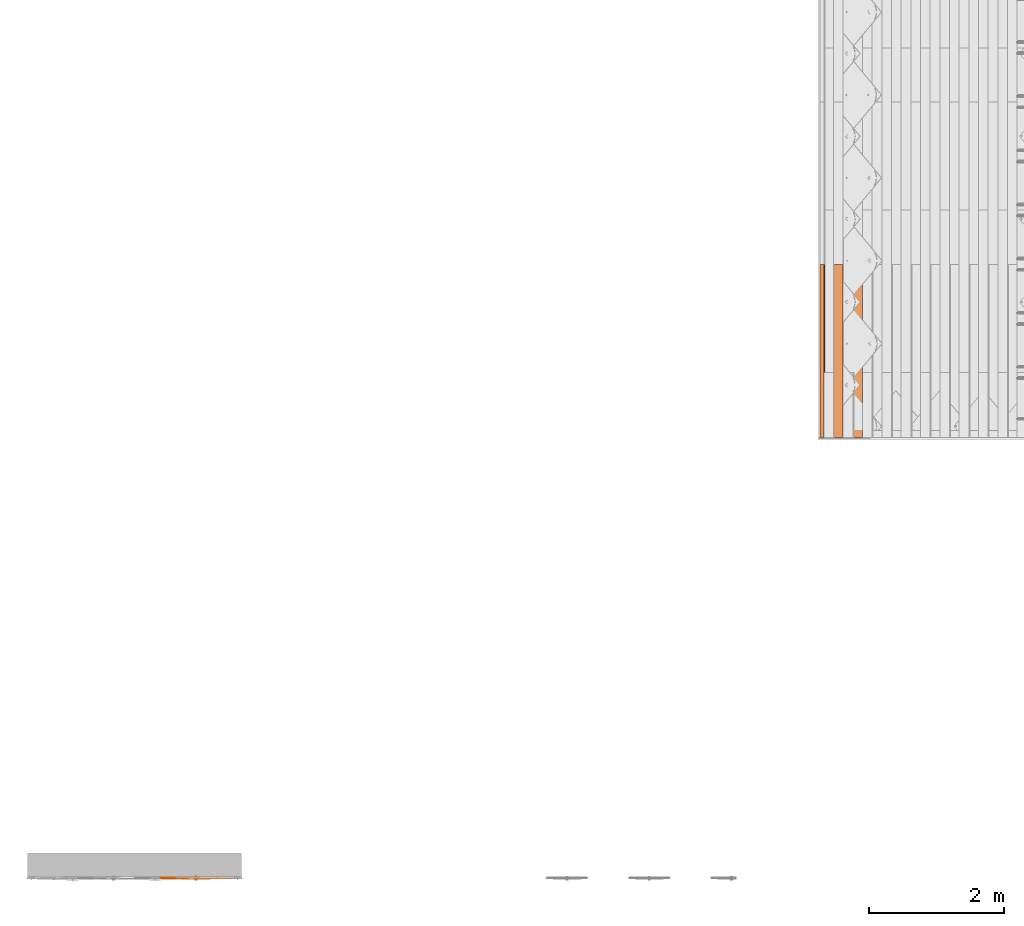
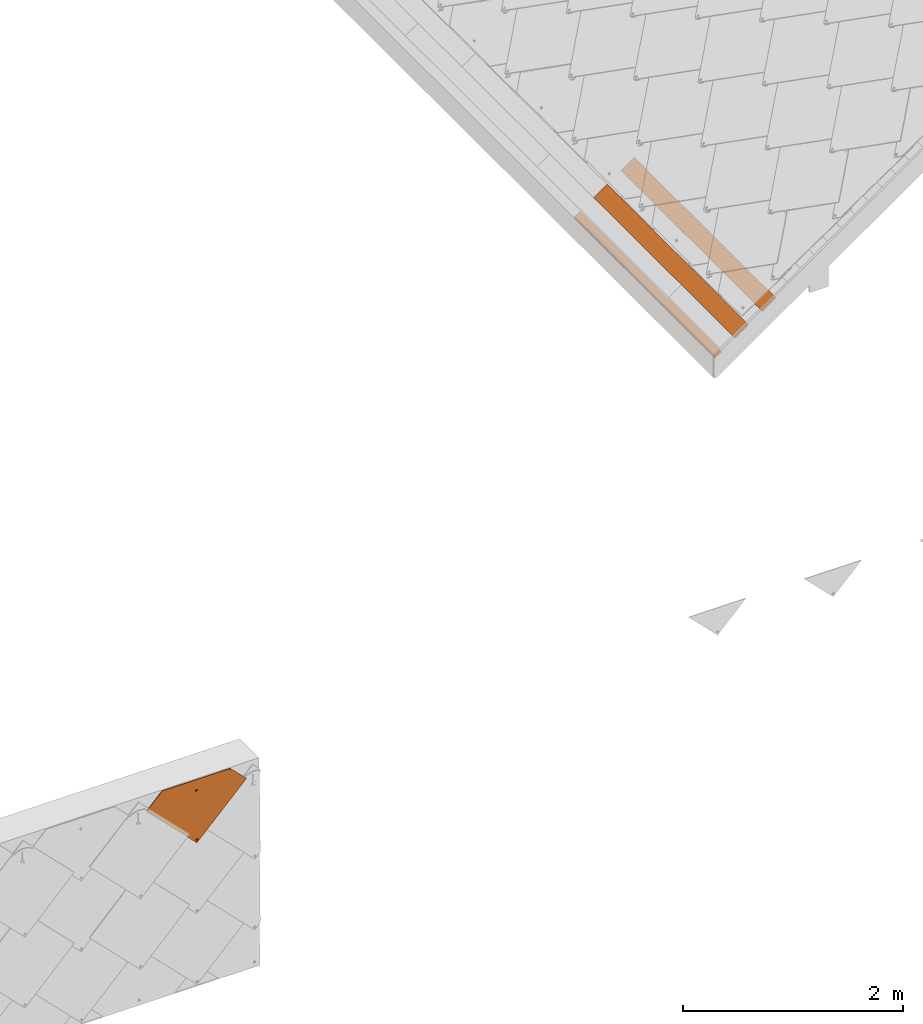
# One storey, part 8 of 151: 4 proxies, 1 element without a shape of its own.
"""IFC2X3 building model written with IfcOpenShell, lengths in millimetres."""

from ifc_helpers import new_model, entity, si_unit, converted_unit, derived_unit, direction, frame, frame_2d, origin, place, context, subcontext, project, spatial, polyline, rectangle, outline, extrude, faceted_brep, source, transform, mapped, material, material_list, type_object, type_shapes, element, aggregate, save


model = new_model("IFC2X3")

# Units and contexts
model_context = context("Model", 3, precision=0.01, world=origin(), true_north=direction((6.12303176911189e-17, 1.0)))
body_context = subcontext(model_context, "Body", "Model", "MODEL_VIEW")
ifc_project = project(units=[si_unit("LENGTHUNIT", "METRE", prefix="MILLI"), si_unit("AREAUNIT", "SQUARE_METRE"), si_unit("VOLUMEUNIT", "CUBIC_METRE"), converted_unit("PLANEANGLEUNIT", "DEGREE", entity("IfcRatioMeasure", 0.0174532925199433), si_unit("PLANEANGLEUNIT", "RADIAN"), dimensions=[0, 0, 0, 0, 0, 0, 0]), si_unit("MASSUNIT", "GRAM", prefix="KILO"), derived_unit("MASSDENSITYUNIT", [(si_unit("MASSUNIT", "GRAM", prefix="KILO"), 1), (si_unit("LENGTHUNIT", "METRE"), -3)]), si_unit("TIMEUNIT", "SECOND"), si_unit("FREQUENCYUNIT", "HERTZ"), si_unit("THERMODYNAMICTEMPERATUREUNIT", "DEGREE_CELSIUS"), derived_unit("THERMALTRANSMITTANCEUNIT", [(si_unit("MASSUNIT", "GRAM", prefix="KILO"), 1), (si_unit("THERMODYNAMICTEMPERATUREUNIT", "KELVIN"), -1), (si_unit("TIMEUNIT", "SECOND"), -3)]), derived_unit("VOLUMETRICFLOWRATEUNIT", [(si_unit("LENGTHUNIT", "METRE"), 3), (si_unit("TIMEUNIT", "SECOND"), -1)]), si_unit("ELECTRICCURRENTUNIT", "AMPERE"), si_unit("ELECTRICVOLTAGEUNIT", "VOLT"), si_unit("POWERUNIT", "WATT"), si_unit("FORCEUNIT", "NEWTON", prefix="KILO"), si_unit("ILLUMINANCEUNIT", "LUX"), si_unit("LUMINOUSFLUXUNIT", "LUMEN"), si_unit("LUMINOUSINTENSITYUNIT", "CANDELA"), derived_unit("USERDEFINED", [(si_unit("MASSUNIT", "GRAM", prefix="KILO"), -1), (si_unit("LENGTHUNIT", "METRE"), -2), (si_unit("TIMEUNIT", "SECOND"), 3), (si_unit("LUMINOUSFLUXUNIT", "LUMEN"), 1)]), derived_unit("LINEARVELOCITYUNIT", [(si_unit("LENGTHUNIT", "METRE"), 1), (si_unit("TIMEUNIT", "SECOND"), -1)]), si_unit("PRESSUREUNIT", "PASCAL"), derived_unit("USERDEFINED", [(si_unit("LENGTHUNIT", "METRE"), -2), (si_unit("MASSUNIT", "GRAM", prefix="KILO"), 1), (si_unit("TIMEUNIT", "SECOND"), -2)])], contexts=[model_context])

# Site, building, storey
site_placement = place(None, origin())
site = spatial("IfcSite", under=ifc_project, at=site_placement, Name="Default", CompositionType="ELEMENT")
building_placement = place(site_placement, origin())
building = spatial("IfcBuilding", under=site, at=building_placement, CompositionType="ELEMENT")
storey_placement = place(building_placement, origin())
storey = spatial("IfcBuildingStorey", under=building, at=storey_placement, Name="Level 1", CompositionType="ELEMENT", Elevation=0.0)

# Assembly, proxies
assembly_placement = place(storey_placement, origin())
assembly = element("IfcElementAssembly", 1, at=assembly_placement, inside=storey, Name="Structural Framing Assembly:Roof Construction Assembly", ObjectType="Structural Framing Assembly:Roof Construction Assembly", AssemblyPlace="NOTDEFINED", PredefinedType="USERDEFINED")
ifc_material_1 = material(Name="Wood - Generic - Wood For Showcase")
building_element_proxy_type_1 = type_object("IfcBuildingElementProxyType", Name="Structural Framing 15", PredefinedType="NOTDEFINED", material=ifc_material_1)
shared_shape_1 = source(origin(), body_context, "Body", "SweptSolid", [
    extrude(rectangle(XDim=24.9999999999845, YDim=174.344679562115, at=frame_2d((-1.77635683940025e-13, -4.54747350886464e-13), x_axis=(0.0, 1.0))), frame((1128.20180147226, 1437.09519417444, 2760.23940055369), z_axis=(0.0, 1.0, 0.0), x_axis=(-0.819152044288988, 0.0, -0.573576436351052)), (0.0, 0.0, 1.0), 2558.4556079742),
])
type_shapes(building_element_proxy_type_1, [shared_shape_1])
proxy_1_placement = place(assembly_placement, frame((-3227.25254439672, -8140.0, -2300.0)))
proxy_1 = element("IfcBuildingElementProxy", 2, at=proxy_1_placement, type_object=building_element_proxy_type_1, material=ifc_material_1, Name="Structural Framing 133:Structural Framing 15", ObjectType="Structural Framing 133:Structural Framing 15", context=body_context, shape_type="MappedRepresentation", body=[
    mapped(shared_shape_1, transform((0.0, 0.0, 0.0), scale=1.0)),
])
building_element_proxy_type_2 = type_object("IfcBuildingElementProxyType", Name="Structural Framing 15", PredefinedType="NOTDEFINED", material=ifc_material_1)
shared_shape_2 = source(origin(), body_context, "Body", "SweptSolid", [
    extrude(rectangle(XDim=24.9999999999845, YDim=174.344679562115, at=frame_2d((-1.77635683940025e-13, -4.54747350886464e-13), x_axis=(0.0, 1.0))), frame((1128.20180147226, 1437.09519417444, 2760.23940055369), z_axis=(0.0, 1.0, 0.0), x_axis=(-0.819152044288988, 0.0, -0.573576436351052)), (0.0, 0.0, 1.0), 2558.4556079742),
])
type_shapes(building_element_proxy_type_2, [shared_shape_2])
proxy_2_placement = place(assembly_placement, frame((-3512.88214574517, -8140.0, -2500.0)))
proxy_2 = element("IfcBuildingElementProxy", 3, at=proxy_2_placement, type_object=building_element_proxy_type_2, material=ifc_material_1, Name="Structural Framing 143:Structural Framing 15", ObjectType="Structural Framing 143:Structural Framing 15", context=body_context, shape_type="MappedRepresentation", body=[
    mapped(shared_shape_2, transform((0.0, 0.0, 0.0), scale=1.0)),
])
building_element_proxy_type_3 = type_object("IfcBuildingElementProxyType", Name="Structural Framing 15", PredefinedType="NOTDEFINED", material=ifc_material_1)
shared_shape_3 = source(origin(), body_context, "Body", "SweptSolid", [
    extrude(outline(polyline([(-38.2231230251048, -12.4999999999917), (46.9757172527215, -12.4999999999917), (29.470528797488, 12.4999999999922), (-38.2231230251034, 12.4999999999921), (-38.2231230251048, -12.4999999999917)])), frame((-2687.70096575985, -6702.90480582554, 88.3155178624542), z_axis=(0.0, 1.0, 0.0), x_axis=(-0.819152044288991, 0.0, -0.573576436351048)), (0.0, 0.0, 1.0), 2558.45560797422),
])
type_shapes(building_element_proxy_type_3, [shared_shape_3])
proxy_3_placement = place(assembly_placement, frame((57.4878711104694, 0.0, 0.0)))
proxy_3 = element("IfcBuildingElementProxy", 4, at=proxy_3_placement, type_object=building_element_proxy_type_3, material=ifc_material_1, Name="Structural Framing 150:Structural Framing 15", ObjectType="Structural Framing 150:Structural Framing 15", context=body_context, shape_type="MappedRepresentation", body=[
    mapped(shared_shape_3, transform((0.0, 0.0, 0.0), scale=1.0)),
])
aggregate(assembly, [proxy_1, proxy_2, proxy_3])

# Proxy
ifc_material_2 = material(Name="Rubber - Sunstyle - Black")
ifc_material_3 = material(Name="Glass - Sunstyle - Tainted Terracotta")
ifc_material_list_1 = material_list([ifc_material_2, ifc_material_3])
ifc_material_list_2 = material_list([ifc_material_2, ifc_material_3])
building_element_proxy_type_4 = type_object("IfcBuildingElementProxyType", Name="Shingle Top - Terracotta", PredefinedType="NOTDEFINED", material=ifc_material_list_2)
shared_shape_4 = source(origin(), body_context, "Body", "Brep", [
    faceted_brep([(-518.396436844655, -96.9865733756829, 16.4476231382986), (-518.396436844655, -96.9614556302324, 17.9474128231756), (-526.881123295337, -88.4767691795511, 17.8053154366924), (-526.881123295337, -88.5018869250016, 16.3055257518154), (-376.996804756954, 61.3404039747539, 13.7960402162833), (-368.512118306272, 52.8557175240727, 13.9381376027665), (-376.996804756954, 61.3655217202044, 15.2958299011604), (-368.512118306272, 52.8808352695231, 15.4379272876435)], [[[0, 1, 2, 3]], [[0, 3, 4, 5]], [[3, 2, 6, 4]], [[2, 1, 7, 6]], [[1, 0, 5, 7]], [[5, 4, 6, 7]]]),
    faceted_brep([(0.166366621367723, -33.6374645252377, -4.47296585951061), (-5.6078362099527, -36.9707346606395, -4.4171418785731), (-5.60783620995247, -36.6024255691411, 17.5747274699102), (0.166366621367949, -33.2691554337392, 17.5189034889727), (-5.60783620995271, -43.6372749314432, -4.30549391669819), (-5.60783620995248, -43.2689658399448, 17.6863754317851), (0.166366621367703, -46.9705450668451, -4.24966993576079), (0.166366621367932, -46.6022359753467, 17.7421994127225), (5.94056945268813, -43.6372749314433, -4.30549391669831), (5.94056945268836, -43.2689658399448, 17.686375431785), (5.94056945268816, -36.9707346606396, -4.41714187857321), (5.94056945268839, -36.6024255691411, 17.5747274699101), (-8.43733754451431, -48.5381935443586, 17.774621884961), (0.16636662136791, -52.1014648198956, 17.8342978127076), (-12.0011084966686, -39.9356957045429, 17.6305514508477), (-8.43733754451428, -31.3331978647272, 17.4864810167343), (0.166366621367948, -27.7699265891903, 17.4268050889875), (8.77007078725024, -31.3331978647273, 17.4864810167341), (12.3338417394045, -39.935695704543, 17.6305514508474), (8.77007078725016, -48.5381935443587, 17.7746218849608), (-11.1578780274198, -37.6406185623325, 19.9433933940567), (-9.59010793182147, -39.8646808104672, 21.8708760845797), (0.166366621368, -32.5516055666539, 22.5035764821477), (0.166366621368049, -31.3111079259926, 21.9232298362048), (0.166366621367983, -29.1535570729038, 20.9138547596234), (0.166366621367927, -51.5454208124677, 19.1093557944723), (0.166366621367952, -50.6018442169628, 21.273060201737), (0.166366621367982, -47.1524685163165, 22.7481046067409), (0.166366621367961, -28.2829626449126, 18.7197675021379), (-6.15687907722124, -43.5022527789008, 22.6869725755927), (-6.15687907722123, -36.2018213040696, 22.5647085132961), (11.4906112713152, -42.1520387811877, 20.0189484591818), (10.0152467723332, -40.9390872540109, 21.7920079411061), (6.48961231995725, -36.2018213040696, 22.564708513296), (6.48961231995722, -43.5022527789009, 22.6869725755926), (-6.15687907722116, -43.3682243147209, 30.68986075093), (0.166366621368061, -47.0184400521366, 30.7509927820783), (0.166366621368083, -39.7180085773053, 30.6287287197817), (-6.15687907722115, -36.0677928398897, 30.5675966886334), (6.48961231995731, -43.368224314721, 30.6898607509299), (6.48961231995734, -36.0677928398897, 30.5675966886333), (0.166366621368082, -32.417577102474, 30.5064646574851), (0.166366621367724, -40.3040047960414, -4.36131789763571)], [[[0, 1, 2, 3]], [[1, 4, 5, 2]], [[4, 6, 7, 5]], [[6, 8, 9, 7]], [[8, 10, 11, 9]], [[10, 0, 3, 11]], [[12, 7, 13]], [[7, 12, 5]], [[14, 5, 12]], [[5, 14, 2]], [[15, 2, 14]], [[3, 2, 15]], [[15, 16, 3]], [[16, 17, 3]], [[11, 3, 17]], [[11, 17, 18]], [[9, 11, 18]], [[18, 19, 9]], [[7, 9, 19]], [[19, 13, 7]], [[20, 14, 12]], [[21, 22, 23, 24]], [[24, 20, 21]], [[25, 20, 12]], [[26, 27, 21]], [[15, 14, 20]], [[12, 13, 25]], [[20, 28, 15]], [[28, 20, 24]], [[21, 27, 29]], [[21, 29, 30]], [[26, 21, 20]], [[20, 25, 26]], [[15, 28, 16]], [[21, 30, 22]], [[31, 18, 17]], [[28, 31, 17]], [[32, 27, 26]], [[26, 31, 32]], [[26, 25, 31]], [[25, 19, 31]], [[17, 16, 28]], [[31, 19, 18]], [[24, 31, 28]], [[33, 34, 32]], [[23, 22, 33]], [[24, 32, 31]], [[27, 32, 34]], [[32, 23, 33]], [[19, 25, 13]], [[32, 24, 23]], [[35, 36, 37]], [[37, 38, 35]], [[36, 39, 37]], [[40, 37, 39]], [[37, 40, 41]], [[37, 41, 38]], [[42, 6, 4]], [[4, 1, 42]], [[1, 0, 42]], [[42, 8, 6]], [[0, 10, 42]], [[8, 42, 10]], [[22, 30, 38, 41]], [[30, 29, 35, 38]], [[29, 27, 36, 35]], [[27, 34, 39, 36]], [[34, 33, 40, 39]], [[33, 22, 41, 40]]]),
    faceted_brep([(0.0, -573.927138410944, 4.00636906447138), (-5.77420283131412, -577.260408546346, 4.0621930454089), (-5.77420283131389, -576.892099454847, 26.0540623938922), (0.0, -573.558829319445, 25.9982384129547), (-5.77420283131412, -583.926948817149, 4.1738410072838), (-5.7742028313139, -583.558639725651, 26.1657103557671), (0.0, -587.260218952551, 4.2296649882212), (0.0, -586.891909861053, 26.2215343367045), (5.77420283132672, -583.926948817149, 4.17384100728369), (5.77420283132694, -583.558639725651, 26.165710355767), (5.77420283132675, -577.260408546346, 4.06219304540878), (5.77420283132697, -576.892099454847, 26.0540623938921), (-8.60370416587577, -588.827867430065, 26.253956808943), (0.0, -592.391138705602, 26.3136327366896), (-12.1674751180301, -580.225369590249, 26.1098863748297), (-8.60370416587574, -571.622871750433, 25.9658159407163), (0.0, -568.059600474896, 25.9061400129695), (8.60370416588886, -571.622871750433, 25.9658159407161), (12.1674751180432, -580.225369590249, 26.1098863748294), (8.60370416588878, -588.827867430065, 26.2539568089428), (-11.3242446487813, -577.930292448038, 28.4227283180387), (-9.75647455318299, -580.154354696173, 30.3502110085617), (0.0, -572.84127945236, 30.9829114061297), (0.0, -571.600781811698, 30.4025647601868), (0.0, -569.44323095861, 29.3931896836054), (0.0, -591.835094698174, 27.5886907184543), (0.0, -590.891518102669, 29.752395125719), (0.0, -587.442142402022, 31.227439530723), (0.0, -568.572636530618, 27.1991024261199), (-6.32324569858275, -583.791926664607, 31.1663074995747), (-6.32324569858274, -576.491495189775, 31.0440434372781), (11.3242446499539, -582.441712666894, 28.4982833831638), (9.84888015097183, -581.228761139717, 30.2713428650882), (6.32324569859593, -576.491495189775, 31.044043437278), (6.32324569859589, -583.791926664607, 31.1663074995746), (-6.32324569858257, -583.657898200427, 39.169195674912), (0.0, -587.308113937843, 39.2303277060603), (0.0, -580.007682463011, 39.1080636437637), (-6.32324569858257, -576.357466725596, 39.0469316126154), (6.32324569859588, -583.657898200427, 39.1691956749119), (6.32324569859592, -576.357466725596, 39.0469316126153), (0.0, -572.70725098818, 38.9857995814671), (0.0, -580.593678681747, 4.11801702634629)], [[[0, 1, 2, 3]], [[1, 4, 5, 2]], [[4, 6, 7, 5]], [[6, 8, 9, 7]], [[8, 10, 11, 9]], [[10, 0, 3, 11]], [[12, 7, 13]], [[7, 12, 5]], [[14, 5, 12]], [[5, 14, 2]], [[15, 2, 14]], [[3, 2, 15]], [[15, 16, 3]], [[16, 17, 3]], [[11, 3, 17]], [[11, 17, 18]], [[9, 11, 18]], [[18, 19, 9]], [[7, 9, 19]], [[19, 13, 7]], [[20, 14, 12]], [[21, 22, 23, 24]], [[24, 20, 21]], [[25, 20, 12]], [[26, 27, 21]], [[15, 14, 20]], [[12, 13, 25]], [[20, 28, 15]], [[28, 20, 24]], [[21, 27, 29]], [[21, 29, 30]], [[26, 21, 20]], [[20, 25, 26]], [[15, 28, 16]], [[21, 30, 22]], [[31, 18, 17]], [[28, 31, 17]], [[32, 27, 26]], [[26, 31, 32]], [[26, 25, 31]], [[25, 19, 31]], [[17, 16, 28]], [[31, 19, 18]], [[24, 31, 28]], [[33, 34, 32]], [[23, 22, 33]], [[24, 32, 31]], [[27, 32, 34]], [[32, 23, 33]], [[19, 25, 13]], [[32, 24, 23]], [[35, 36, 37]], [[37, 38, 35]], [[36, 39, 37]], [[40, 37, 39]], [[37, 40, 41]], [[37, 41, 38]], [[42, 6, 4]], [[4, 1, 42]], [[1, 0, 42]], [[42, 8, 6]], [[0, 10, 42]], [[8, 42, 10]], [[22, 30, 38, 41]], [[30, 29, 35, 38]], [[29, 27, 36, 35]], [[27, 34, 39, 36]], [[34, 33, 40, 39]], [[33, 22, 41, 40]]]),
    faceted_brep([(518.482751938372, -96.8754983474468, 17.9260478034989), (526.967438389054, -88.3908118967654, 17.7839504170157), (526.967438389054, -88.3656941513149, 19.2837401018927), (518.482751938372, -96.8503806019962, 19.4258374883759), (349.749400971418, 71.8105397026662, 15.1009763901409), (358.234087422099, 80.2952261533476, 14.9588790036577), (358.234087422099, 80.3203438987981, 16.4586686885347), (349.749400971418, 71.8356574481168, 16.6007660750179)], [[[0, 1, 2, 3]], [[1, 0, 4, 5]], [[2, 1, 5, 6]], [[3, 2, 6, 7]], [[0, 3, 7, 4]], [[4, 7, 6, 5]]]),
    faceted_brep([(358.234087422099, 80.2952261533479, 14.9588790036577), (6.94661128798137, -35.8890860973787, 16.9046771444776), (7.74581466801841, -37.8182632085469, 16.9369860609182), (5.67526230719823, -34.2324641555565, 16.8769328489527), (8.01840805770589, -39.8885252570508, 16.9716577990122), (7.74581466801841, -41.9587873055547, 17.0063295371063), (6.94661128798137, -43.8879644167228, 17.0386384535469), (526.967438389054, -88.3908118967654, 17.7839504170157), (4.01840805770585, -32.9612934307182, 16.855643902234), (2.08896041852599, -32.1622021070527, 16.8422611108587), (0.0184080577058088, -31.8896469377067, 16.8376964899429), (-358.233442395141, 80.2952261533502, 14.9588790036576), (-2.05214430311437, -32.1622021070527, 16.8422611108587), (-3.98159194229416, -32.9612934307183, 16.855643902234), (-5.63844619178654, -34.2324641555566, 16.8769328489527), (-6.90979517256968, -35.8890860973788, 16.9046771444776), (-7.70899855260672, -37.8182632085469, 16.9369860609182), (-7.98159194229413, -39.8885252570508, 16.9716577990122), (-7.70899855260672, -41.9587873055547, 17.0063295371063), (-6.90979517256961, -43.8879644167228, 17.0386384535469), (-526.966793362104, -88.390811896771, 17.7839504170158), (-5.63844619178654, -45.544586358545, 17.0663827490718), (-5.6568542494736, -574.226981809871, 25.9204974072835), (-6.92820323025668, -575.883603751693, 25.9482417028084), (-7.72740661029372, -577.812780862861, 25.980550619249), (-8.0, -579.883042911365, 26.015222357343), (-7.72740661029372, -581.953304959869, 26.049894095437), (0.000322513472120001, -615.210165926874, 26.6068637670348), (7.72740661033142, -581.953304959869, 26.049894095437), (6.92820323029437, -583.882482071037, 26.0822030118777), (5.65685424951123, -585.53910401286, 26.1099473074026), (4.0, -586.810274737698, 26.1312362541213), (2.070552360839, -587.609366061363, 26.1446190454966), (0.0, -587.881921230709, 26.1491836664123), (-2.0705523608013, -587.609366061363, 26.1446190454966), (-4.0, -586.810274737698, 26.1312362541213), (-5.65685424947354, -585.53910401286, 26.1099473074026), (-6.92820323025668, -583.882482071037, 26.0822030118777), (-4.0, -572.955811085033, 25.8992084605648), (-3.98159194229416, -46.8157570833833, 17.0876716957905), (-2.07055236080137, -572.156719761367, 25.8858256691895), (-2.05214430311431, -47.614848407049, 17.1010544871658), (0.0, -571.884164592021, 25.8812610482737), (0.0184080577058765, -47.8874035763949, 17.1056191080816), (2.07055236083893, -572.156719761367, 25.8858256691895), (2.08896041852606, -47.6148484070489, 17.1010544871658), (4.0, -572.955811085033, 25.8992084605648), (4.01840805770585, -46.8157570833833, 17.0876716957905), (5.65685424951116, -574.226981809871, 25.9204974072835), (5.67526230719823, -45.544586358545, 17.0663827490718), (6.92820323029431, -575.883603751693, 25.9482417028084), (7.72740661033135, -577.812780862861, 25.980550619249), (8.0, -579.883042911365, 26.015222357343), (-358.233442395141, 80.1947551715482, 8.9597202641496), (-6.90979517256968, -35.9895570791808, 10.9055184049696), (-7.70899855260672, -37.9187341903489, 10.9378273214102), (-5.63844619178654, -34.3329351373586, 10.8777741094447), (-7.98159194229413, -39.9889962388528, 10.9724990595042), (-7.70899855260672, -42.0592582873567, 11.0071707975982), (-6.90979517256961, -43.9884353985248, 11.0394797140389), (-526.966793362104, -88.4912828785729, 11.7847916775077), (-3.98159194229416, -33.0617644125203, 10.856485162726), (-2.05214430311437, -32.2626730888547, 10.8431023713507), (0.0184080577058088, -31.9901179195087, 10.8385377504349), (358.234087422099, 80.1947551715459, 8.95972026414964), (2.08896041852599, -32.2626730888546, 10.8431023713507), (4.01840805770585, -33.0617644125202, 10.856485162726), (5.67526230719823, -34.3329351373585, 10.8777741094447), (6.94661128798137, -35.9895570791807, 10.9055184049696), (7.74581466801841, -37.9187341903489, 10.9378273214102), (8.01840805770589, -39.9889962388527, 10.9724990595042), (7.74581466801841, -42.0592582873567, 11.0071707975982), (6.94661128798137, -43.9884353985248, 11.0394797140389), (526.967438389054, -88.4912828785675, 11.7847916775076), (5.67526230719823, -45.645057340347, 11.0672240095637), (5.65685424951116, -574.327452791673, 19.9213386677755), (6.92820323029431, -575.984074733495, 19.9490829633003), (7.72740661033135, -577.913251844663, 19.981391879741), (8.0, -579.983513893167, 20.016063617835), (7.72740661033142, -582.053775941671, 20.050735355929), (0.000322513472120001, -615.310636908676, 20.6077050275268), (-7.72740661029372, -582.053775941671, 20.050735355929), (-6.92820323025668, -583.982953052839, 20.0830442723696), (-5.65685424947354, -585.639574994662, 20.1107885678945), (-4.0, -586.9107457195, 20.1320775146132), (-2.0705523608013, -587.709837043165, 20.1454603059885), (0.0, -587.982392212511, 20.1500249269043), (2.070552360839, -587.709837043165, 20.1454603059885), (4.0, -586.9107457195, 20.1320775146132), (5.65685424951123, -585.639574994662, 20.1107885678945), (6.92820323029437, -583.982953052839, 20.0830442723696), (4.01840805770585, -46.9162280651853, 11.0885129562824), (4.0, -573.056282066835, 19.9000497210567), (2.08896041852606, -47.7153193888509, 11.1018957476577), (2.07055236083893, -572.257190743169, 19.8866669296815), (0.0184080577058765, -47.9878745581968, 11.1064603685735), (0.0, -571.984635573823, 19.8821023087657), (-2.05214430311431, -47.7153193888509, 11.1018957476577), (-2.07055236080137, -572.257190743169, 19.8866669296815), (-3.98159194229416, -46.9162280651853, 11.0885129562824), (-4.0, -573.056282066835, 19.9000497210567), (-5.63844619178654, -45.645057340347, 11.0672240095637), (-5.6568542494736, -574.327452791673, 19.9213386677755), (-6.92820323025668, -575.984074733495, 19.9490829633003), (-7.72740661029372, -577.913251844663, 19.981391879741), (-8.0, -579.983513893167, 20.016063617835)], [[[0, 1, 2]], [[1, 0, 3]], [[0, 2, 4]], [[4, 5, 0]], [[5, 6, 0]], [[7, 0, 6]], [[8, 3, 0]], [[9, 8, 0]], [[10, 9, 0]], [[0, 11, 10]], [[12, 10, 11]], [[13, 12, 11]], [[14, 13, 11]], [[11, 15, 14]], [[15, 11, 16]], [[16, 11, 17]], [[11, 18, 17]], [[18, 11, 19]], [[11, 20, 19]], [[19, 20, 21]], [[20, 22, 21]], [[23, 22, 20]], [[24, 23, 20]], [[24, 20, 25]], [[26, 25, 20]], [[27, 26, 20]], [[7, 28, 27]], [[29, 27, 28]], [[27, 29, 30]], [[30, 31, 27]], [[31, 32, 27]], [[27, 32, 33]], [[27, 33, 34]], [[34, 35, 27]], [[27, 35, 36]], [[36, 37, 27]], [[37, 26, 27]], [[38, 21, 22]], [[38, 39, 21]], [[38, 40, 39]], [[40, 41, 39]], [[40, 42, 41]], [[41, 42, 43]], [[44, 43, 42]], [[44, 45, 43]], [[45, 44, 46]], [[46, 47, 45]], [[46, 48, 47]], [[48, 49, 47]], [[50, 7, 48]], [[48, 7, 49]], [[7, 50, 51]], [[7, 51, 52]], [[52, 28, 7]], [[7, 6, 49]], [[53, 54, 55]], [[54, 53, 56]], [[53, 55, 57]], [[58, 53, 57]], [[59, 53, 58]], [[60, 53, 59]], [[61, 56, 53]], [[62, 61, 53]], [[53, 63, 62]], [[63, 53, 64]], [[65, 63, 64]], [[66, 65, 64]], [[64, 67, 66]], [[67, 64, 68]], [[68, 64, 69]], [[70, 69, 64]], [[71, 70, 64]], [[72, 71, 64]], [[72, 64, 73]], [[72, 73, 74]], [[74, 73, 75]], [[73, 76, 75]], [[76, 73, 77]], [[77, 73, 78]], [[79, 78, 73]], [[79, 73, 80]], [[60, 81, 80]], [[80, 81, 82]], [[80, 82, 83]], [[83, 84, 80]], [[84, 85, 80]], [[85, 86, 80]], [[80, 86, 87]], [[80, 87, 88]], [[80, 88, 89]], [[79, 80, 90]], [[80, 89, 90]], [[75, 91, 74]], [[75, 92, 91]], [[92, 93, 91]], [[93, 92, 94]], [[93, 94, 95]], [[96, 95, 94]], [[97, 95, 96]], [[96, 98, 97]], [[98, 99, 97]], [[98, 100, 99]], [[100, 101, 99]], [[100, 102, 101]], [[60, 101, 102]], [[103, 60, 102]], [[103, 104, 60]], [[104, 105, 60]], [[105, 81, 60]], [[59, 101, 60]], [[27, 20, 60, 80]], [[7, 27, 80, 73]], [[0, 7, 73, 64]], [[25, 105, 104, 24]], [[24, 104, 103, 23]], [[38, 22, 102, 100]], [[102, 22, 23, 103]], [[40, 38, 100, 98]], [[40, 98, 96, 42]], [[42, 96, 94, 44]], [[44, 94, 92, 46]], [[50, 48, 75, 76]], [[75, 48, 46, 92]], [[51, 50, 76, 77]], [[51, 77, 78, 52]], [[52, 78, 79, 28]], [[28, 79, 90, 29]], [[31, 30, 89, 88]], [[29, 90, 89, 30]], [[87, 32, 31, 88]], [[32, 87, 86, 33]], [[34, 33, 86, 85]], [[34, 85, 84, 35]], [[37, 36, 83, 82]], [[35, 84, 83, 36]], [[37, 82, 81, 26]], [[26, 81, 105, 25]], [[17, 57, 55, 16]], [[16, 55, 54, 15]], [[13, 14, 56, 61]], [[56, 14, 15, 54]], [[12, 13, 61, 62]], [[12, 62, 63, 10]], [[10, 63, 65, 9]], [[9, 65, 66, 8]], [[1, 3, 67, 68]], [[67, 3, 8, 66]], [[2, 1, 68, 69]], [[2, 69, 70, 4]], [[4, 70, 71, 5]], [[5, 71, 72, 6]], [[47, 49, 74, 91]], [[74, 49, 6, 72]], [[45, 47, 91, 93]], [[45, 93, 95, 43]], [[43, 95, 97, 41]], [[41, 97, 99, 39]], [[19, 21, 101, 59]], [[101, 21, 39, 99]], [[18, 19, 59, 58]], [[18, 58, 57, 17]], [[11, 0, 64, 53]], [[20, 11, 53, 60]]]),
])
type_shapes(building_element_proxy_type_4, [shared_shape_4])
proxy_4_placement = place(storey_placement, frame((-11875.0903240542, -13191.873651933, 2456.80158218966), z_axis=(0.0, -1.0, 0.0), x_axis=(1.0, 0.0, 0.0)))
element("IfcBuildingElementProxy", 5, at=proxy_4_placement, inside=storey, type_object=building_element_proxy_type_4, material=ifc_material_list_1, Name="Roofing_Panels_SunStyle_Tile_Shingle-Top:Shingle Top - Terracotta", ObjectType="Roofing_Panels_SunStyle_Tile_Shingle-Top:Shingle Top - Terracotta", context=body_context, shape_type="MappedRepresentation", body=[
    mapped(shared_shape_4, transform((0.0, 0.0, 0.0), scale=1.0)),
])

save(model, "model.ifc")
